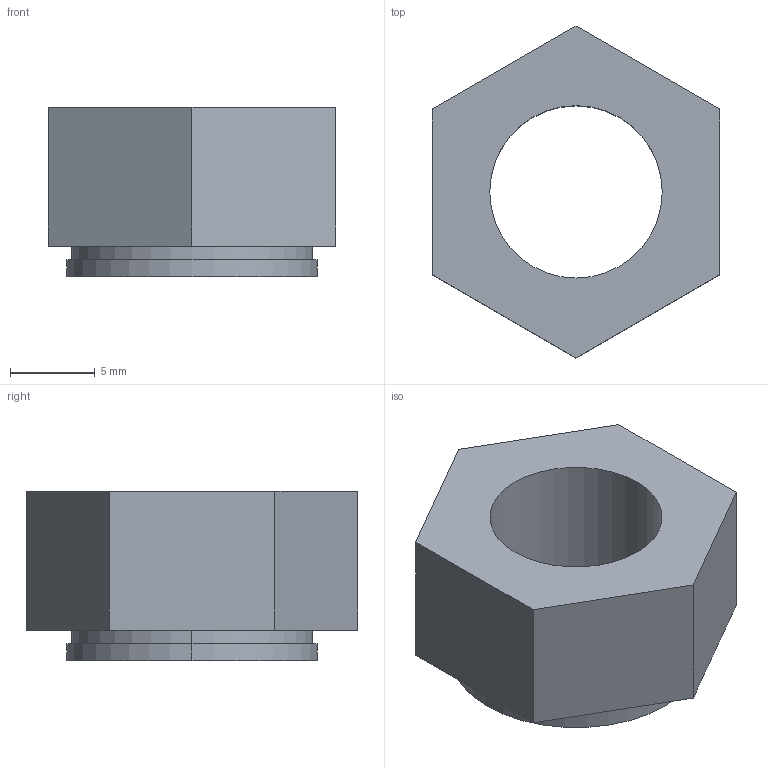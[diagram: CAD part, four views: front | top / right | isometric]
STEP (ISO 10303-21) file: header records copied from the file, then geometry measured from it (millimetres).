
FILE_DESCRIPTION (( 'STEP AP214' ), '1' );
FILE_NAME ('FO-00D-NCB-M12-020 FORMAT Ãàéêà M12 äëÿ çàïðåññîâêè â øèíó.STEP', '2025-09-02T06:43:42', ( '' ), ( '' ), 'SwSTEP 2.0', 'SolidWorks 2023', '' );
FILE_SCHEMA (( 'AUTOMOTIVE_DESIGN' ));
Length unit declared in the file: millimetre
Products named in the file (1): FO-00D-NCB-M12-020 FORMAT Гайка M12 для запрессовки в шину
Bounding box: 17 x 19.63 x 10 mm (x, y, z)
Volume: 1536 mm3; surface area: 1250.4 mm2
Topology: 1 solids, 1 shells, 16 faces, 36 edges, 24 vertices
Faces by surface type: plane 10, cylinder 6
Entity records: 479 total; most frequent: DIRECTION 82, CARTESIAN_POINT 77, ORIENTED_EDGE 72, EDGE_CURVE 36, AXIS2_PLACEMENT_3D 29, VECTOR 24, VERTEX_POINT 24, LINE 24
